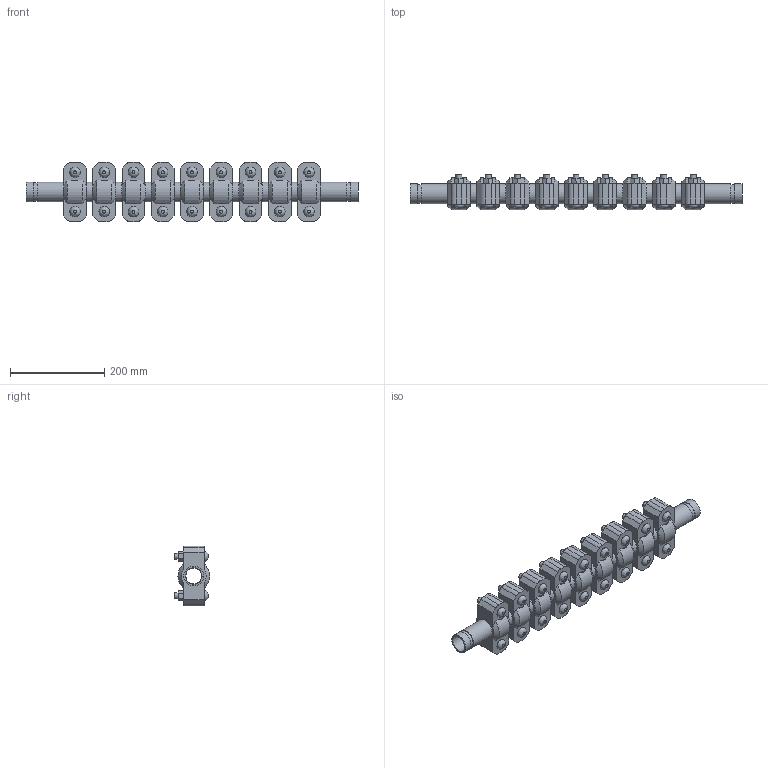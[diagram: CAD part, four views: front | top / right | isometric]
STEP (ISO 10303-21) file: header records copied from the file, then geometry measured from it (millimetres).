
FILE_DESCRIPTION(/* description */ ('VIC EXPANSION JOINT 9 COUPLINGS EXPANDED STYLE 155 (OGS)','CAx-IF Rec.Pracs.---Representation and Presentation of Product Manufacturing Information (PMI)---4.0---2014-10-13'),/* implementation_level */ '2;1');
FILE_NAME(/* name */ 'C:\Users\kkamble\AppData\Roaming\Autodesk\ApplicationPlugins\Victaulic.Temp\A90\Victaulic_IPS_Expansion Joint_Expanded_9 Couplings_Style 155 (OGS)_1.25 (32).stp',/* time_stamp */ '2021-06-27T00:10:53+02:00',/* author */ ('kkamble'),/* organization */ ('Victaulic'),/* preprocessor_version */ 'ST-DEVELOPER v17.2',/* originating_system */ 'Autodesk Inventor 2019',/* authorisation */ '');
FILE_SCHEMA (('AP242_MANAGED_MODEL_BASED_3D_ENGINEERING_MIM_LF { 1 0 10303 442 1 1 4 }'));
Length unit declared in the file: inch
Products named in the file (4): 155-01.25; Nipple-01.25; Nipple-01.25_1; 077-01.25
Assembly tree (19 placements, depth 2):
  155-01.25
    Nipple-01.25  x2
    Nipple-01.25_1  x8
    077-01.25  x9
Bounding box: 703.33 x 74.93 x 127 mm (x, y, z)
Volume: 2345020.1 mm3; surface area: 560334.9 mm2
Topology: 19 solids, 37 shells, 669 faces, 1605 edges, 1122 vertices
Faces by surface type: plane 384, cylinder 231, cone 36, bspline 18
Full cylindrical faces by diameter (mm): 12.7 x36, 14.605 x18, 33.274 x9, 35.052 x10, 38.989 x20, 42.164 x48
Entity records: 3033 total; most frequent: CARTESIAN_POINT 563, DIRECTION 501, ORIENTED_EDGE 410, EDGE_CURVE 205, AXIS2_PLACEMENT_3D 202, VERTEX_POINT 146, EDGE_LOOP 111, LINE 97
